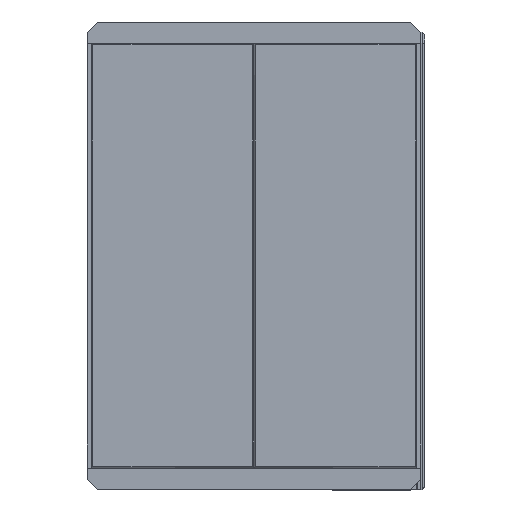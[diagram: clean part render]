
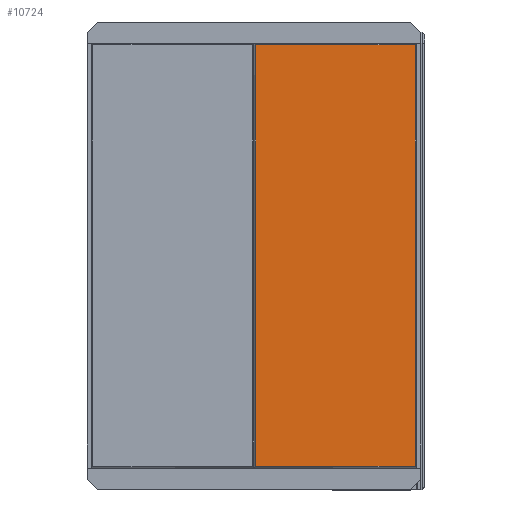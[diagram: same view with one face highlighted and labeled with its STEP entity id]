
A CAD part, top view. The second image highlights one B-rep face of the part: STEP entity #10724.
In plain terms, the highlighted planar face has unit normal (0, 0, 1).
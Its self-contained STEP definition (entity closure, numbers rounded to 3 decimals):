
#567=PLANE('',#11672);
#1055=FACE_OUTER_BOUND('',#1752,.T.);
#1752=EDGE_LOOP('',(#7849,#7850,#7851,#7852));
#2583=LINE('',#16499,#3668);
#2586=LINE('',#16510,#3671);
#2587=LINE('',#16513,#3672);
#2589=LINE('',#16518,#3674);
#3668=VECTOR('',#13119,10.);
#3671=VECTOR('',#13130,10.);
#3672=VECTOR('',#13133,10.);
#3674=VECTOR('',#13139,10.);
#5088=VERTEX_POINT('',#16497);
#5089=VERTEX_POINT('',#16498);
#5093=VERTEX_POINT('',#16508);
#5094=VERTEX_POINT('',#16512);
#6111=EDGE_CURVE('',#5088,#5089,#2583,.T.);
#6117=EDGE_CURVE('',#5089,#5093,#2586,.T.);
#6118=EDGE_CURVE('',#5094,#5088,#2587,.T.);
#6121=EDGE_CURVE('',#5093,#5094,#2589,.T.);
#7849=ORIENTED_EDGE('',*,*,#6111,.T.);
#7850=ORIENTED_EDGE('',*,*,#6117,.T.);
#7851=ORIENTED_EDGE('',*,*,#6121,.T.);
#7852=ORIENTED_EDGE('',*,*,#6118,.T.);
#10724=ADVANCED_FACE('',(#1055),#567,.F.);
#11672=AXIS2_PLACEMENT_3D('',#16520,#13141,#13142);
#13119=DIRECTION('',(0.,-1.,0.));
#13130=DIRECTION('',(1.,0.,0.));
#13133=DIRECTION('',(-1.,0.,0.));
#13139=DIRECTION('',(0.,1.,0.));
#13141=DIRECTION('center_axis',(0.,0.,-1.));
#13142=DIRECTION('ref_axis',(-1.,0.,0.));
#16497=CARTESIAN_POINT('',(8.,1949.5,132.));
#16498=CARTESIAN_POINT('',(8.,55.5,132.));
#16499=CARTESIAN_POINT('',(8.,1480.,132.));
#16508=CARTESIAN_POINT('',(724.,55.5,132.));
#16510=CARTESIAN_POINT('',(183.,55.5,132.));
#16512=CARTESIAN_POINT('',(724.,1949.5,132.));
#16513=CARTESIAN_POINT('',(549.,1949.5,132.));
#16518=CARTESIAN_POINT('',(724.,525.,132.));
#16520=CARTESIAN_POINT('Origin',(366.,1002.5,132.));
